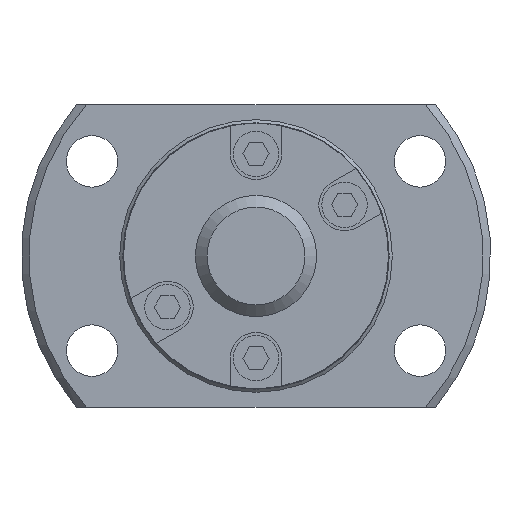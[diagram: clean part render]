
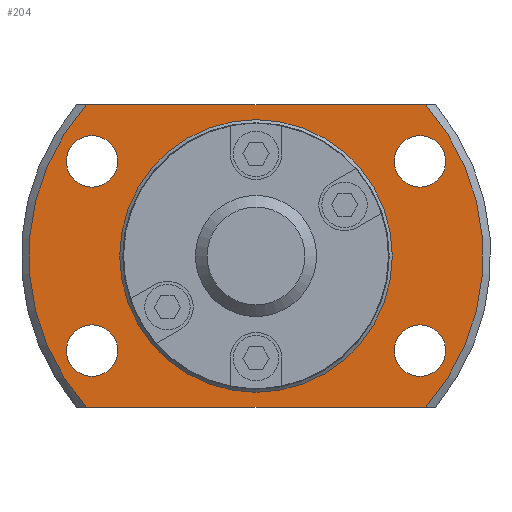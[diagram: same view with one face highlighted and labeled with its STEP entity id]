
A CAD part, left-side view. The second image highlights one B-rep face of the part: STEP entity #204.
In plain terms, the highlighted planar face has unit normal (-1, 0, 0) as drawn and (1, 0, 0) by its records, which use the part's own axes.
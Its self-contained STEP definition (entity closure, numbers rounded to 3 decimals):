
#204 = ADVANCED_FACE( '', ( #414, #415, #416, #417, #418, #419 ), #420, .T. );
#414 = FACE_OUTER_BOUND( '', #777, .T. );
#415 = FACE_BOUND( '', #778, .T. );
#416 = FACE_BOUND( '', #779, .T. );
#417 = FACE_BOUND( '', #780, .T. );
#418 = FACE_BOUND( '', #781, .T. );
#419 = FACE_BOUND( '', #782, .T. );
#420 = PLANE( '', #783 );
#777 = EDGE_LOOP( '', ( #1303, #1304, #1305, #1306 ) );
#778 = EDGE_LOOP( '', ( #1307 ) );
#779 = EDGE_LOOP( '', ( #1308 ) );
#780 = EDGE_LOOP( '', ( #1309 ) );
#781 = EDGE_LOOP( '', ( #1310 ) );
#782 = EDGE_LOOP( '', ( #1311 ) );
#783 = AXIS2_PLACEMENT_3D( '', #1312, #1313, #1314 );
#1303 = ORIENTED_EDGE( '', *, *, #2184, .T. );
#1304 = ORIENTED_EDGE( '', *, *, #2186, .T. );
#1305 = ORIENTED_EDGE( '', *, *, #2255, .T. );
#1306 = ORIENTED_EDGE( '', *, *, #2256, .T. );
#1307 = ORIENTED_EDGE( '', *, *, #2254, .F. );
#1308 = ORIENTED_EDGE( '', *, *, #2257, .F. );
#1309 = ORIENTED_EDGE( '', *, *, #2258, .F. );
#1310 = ORIENTED_EDGE( '', *, *, #2259, .F. );
#1311 = ORIENTED_EDGE( '', *, *, #2260, .F. );
#1312 = CARTESIAN_POINT( '', ( 4., 8.85, 0. ) );
#1313 = DIRECTION( '', ( 1., 0., 0. ) );
#1314 = DIRECTION( '', ( 0., 0., -1. ) );
#2184 = EDGE_CURVE( '', #2525, #2538, #2540, .T. );
#2186 = EDGE_CURVE( '', #2538, #2541, #2544, .T. );
#2254 = EDGE_CURVE( '', #2668, #2668, #2669, .T. );
#2255 = EDGE_CURVE( '', #2541, #2670, #2671, .T. );
#2256 = EDGE_CURVE( '', #2670, #2525, #2672, .T. );
#2257 = EDGE_CURVE( '', #2673, #2673, #2674, .T. );
#2258 = EDGE_CURVE( '', #2675, #2675, #2676, .T. );
#2259 = EDGE_CURVE( '', #2677, #2677, #2678, .T. );
#2260 = EDGE_CURVE( '', #2679, #2679, #2680, .T. );
#2525 = VERTEX_POINT( '', #3095 );
#2538 = VERTEX_POINT( '', #3120 );
#2540 = LINE( '', #3125, #3126 );
#2541 = VERTEX_POINT( '', #3127 );
#2544 = CIRCLE( '', #3133, 15. );
#2668 = VERTEX_POINT( '', #3290 );
#2669 = CIRCLE( '', #3291, 8.85 );
#2670 = VERTEX_POINT( '', #3292 );
#2671 = LINE( '', #3293, #3294 );
#2672 = CIRCLE( '', #3295, 15. );
#2673 = VERTEX_POINT( '', #3296 );
#2674 = CIRCLE( '', #3297, 1.7 );
#2675 = VERTEX_POINT( '', #3298 );
#2676 = CIRCLE( '', #3299, 1.7 );
#2677 = VERTEX_POINT( '', #3300 );
#2678 = CIRCLE( '', #3301, 1.7 );
#2679 = VERTEX_POINT( '', #3302 );
#2680 = CIRCLE( '', #3303, 1.7 );
#3095 = CARTESIAN_POINT( '', ( 4., -11.18, -10. ) );
#3120 = CARTESIAN_POINT( '', ( 4., 11.18, -10. ) );
#3125 = CARTESIAN_POINT( '', ( 4., -15.5, -10. ) );
#3126 = VECTOR( '', #3911, 1000. );
#3127 = CARTESIAN_POINT( '', ( 4., 11.18, 10. ) );
#3133 = AXIS2_PLACEMENT_3D( '', #3912, #3913, #3914 );
#3290 = CARTESIAN_POINT( '', ( 4., 0., -8.85 ) );
#3291 = AXIS2_PLACEMENT_3D( '', #4050, #4051, #4052 );
#3292 = CARTESIAN_POINT( '', ( 4., -11.18, 10. ) );
#3293 = CARTESIAN_POINT( '', ( 4., 15.5, 10. ) );
#3294 = VECTOR( '', #4053, 1000. );
#3295 = AXIS2_PLACEMENT_3D( '', #4054, #4055, #4056 );
#3296 = CARTESIAN_POINT( '', ( 4., 10.825, 4.55 ) );
#3297 = AXIS2_PLACEMENT_3D( '', #4057, #4058, #4059 );
#3298 = CARTESIAN_POINT( '', ( 4., -10.825, 4.55 ) );
#3299 = AXIS2_PLACEMENT_3D( '', #4060, #4061, #4062 );
#3300 = CARTESIAN_POINT( '', ( 4., -10.825, -7.95 ) );
#3301 = AXIS2_PLACEMENT_3D( '', #4063, #4064, #4065 );
#3302 = CARTESIAN_POINT( '', ( 4., 10.825, -7.95 ) );
#3303 = AXIS2_PLACEMENT_3D( '', #4066, #4067, #4068 );
#3911 = DIRECTION( '', ( 0., 1., 0. ) );
#3912 = CARTESIAN_POINT( '', ( 4., 0., 0. ) );
#3913 = DIRECTION( '', ( 1., 0., 0. ) );
#3914 = DIRECTION( '', ( 0., 0., -1. ) );
#4050 = CARTESIAN_POINT( '', ( 4., 0., 0. ) );
#4051 = DIRECTION( '', ( 1., 0., 0. ) );
#4052 = DIRECTION( '', ( 0., 0., -1. ) );
#4053 = DIRECTION( '', ( 0., -1., 0. ) );
#4054 = CARTESIAN_POINT( '', ( 4., 0., 0. ) );
#4055 = DIRECTION( '', ( 1., 0., 0. ) );
#4056 = DIRECTION( '', ( 0., 0., -1. ) );
#4057 = CARTESIAN_POINT( '', ( 4., 10.825, 6.25 ) );
#4058 = DIRECTION( '', ( 1., 0., 0. ) );
#4059 = DIRECTION( '', ( 0., 0., -1. ) );
#4060 = CARTESIAN_POINT( '', ( 4., -10.825, 6.25 ) );
#4061 = DIRECTION( '', ( 1., 0., 0. ) );
#4062 = DIRECTION( '', ( 0., 0., -1. ) );
#4063 = CARTESIAN_POINT( '', ( 4., -10.825, -6.25 ) );
#4064 = DIRECTION( '', ( 1., 0., 0. ) );
#4065 = DIRECTION( '', ( 0., 0., -1. ) );
#4066 = CARTESIAN_POINT( '', ( 4., 10.825, -6.25 ) );
#4067 = DIRECTION( '', ( 1., 0., 0. ) );
#4068 = DIRECTION( '', ( 0., 0., -1. ) );
